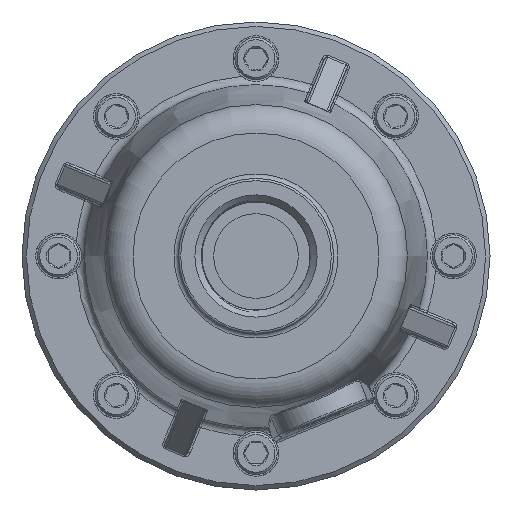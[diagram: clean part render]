
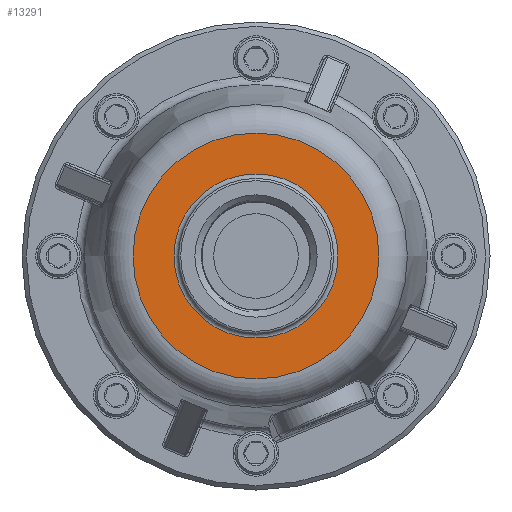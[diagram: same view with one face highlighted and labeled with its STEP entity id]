
A CAD part, front view. The second image highlights one B-rep face of the part: STEP entity #13291.
In plain terms, the highlighted planar face has unit normal (0, -1, 0).
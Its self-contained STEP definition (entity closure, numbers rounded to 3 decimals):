
#498=FACE_BOUND('',#3160,.T.);
#1492=PLANE('',#14518);
#2272=FACE_OUTER_BOUND('',#3159,.T.);
#3159=EDGE_LOOP('',(#11081,#11082));
#3160=EDGE_LOOP('',(#11083,#11084));
#4799=CIRCLE('',#14514,18.465);
#4801=CIRCLE('',#14516,18.465);
#4802=CIRCLE('',#14519,27.677);
#4803=CIRCLE('',#14520,27.677);
#5939=VERTEX_POINT('',#60512);
#5940=VERTEX_POINT('',#60513);
#5947=VERTEX_POINT('',#62699);
#5948=VERTEX_POINT('',#62700);
#7695=EDGE_CURVE('',#5939,#5940,#4799,.T.);
#7697=EDGE_CURVE('',#5940,#5939,#4801,.T.);
#7709=EDGE_CURVE('',#5947,#5948,#4802,.T.);
#7710=EDGE_CURVE('',#5948,#5947,#4803,.T.);
#11081=ORIENTED_EDGE('',*,*,#7709,.F.);
#11082=ORIENTED_EDGE('',*,*,#7710,.F.);
#11083=ORIENTED_EDGE('',*,*,#7695,.F.);
#11084=ORIENTED_EDGE('',*,*,#7697,.F.);
#13291=ADVANCED_FACE('',(#2272,#498),#1492,.T.);
#14514=AXIS2_PLACEMENT_3D('',#60514,#17074,#17075);
#14516=AXIS2_PLACEMENT_3D('',#60516,#17078,#17079);
#14518=AXIS2_PLACEMENT_3D('',#62698,#17082,#17083);
#14519=AXIS2_PLACEMENT_3D('',#62701,#17084,#17085);
#14520=AXIS2_PLACEMENT_3D('',#62702,#17086,#17087);
#17074=DIRECTION('center_axis',(0.,-1.,0.));
#17075=DIRECTION('ref_axis',(1.,0.,0.));
#17078=DIRECTION('center_axis',(0.,-1.,0.));
#17079=DIRECTION('ref_axis',(1.,0.,0.));
#17082=DIRECTION('center_axis',(0.,-1.,0.));
#17083=DIRECTION('ref_axis',(1.,0.,0.));
#17084=DIRECTION('center_axis',(0.,1.,0.));
#17085=DIRECTION('ref_axis',(1.,0.,0.));
#17086=DIRECTION('center_axis',(0.,1.,0.));
#17087=DIRECTION('ref_axis',(1.,0.,0.));
#60512=CARTESIAN_POINT('',(-18.465,-35.56,0.));
#60513=CARTESIAN_POINT('',(0.,-35.56,-18.465));
#60514=CARTESIAN_POINT('Origin',(0.,-35.56,0.));
#60516=CARTESIAN_POINT('Origin',(0.,-35.56,0.));
#62698=CARTESIAN_POINT('Origin',(0.,-35.56,0.));
#62699=CARTESIAN_POINT('',(-27.677,-35.56,0.));
#62700=CARTESIAN_POINT('',(0.,-35.56,-27.677));
#62701=CARTESIAN_POINT('Origin',(0.,-35.56,0.));
#62702=CARTESIAN_POINT('Origin',(0.,-35.56,0.));
